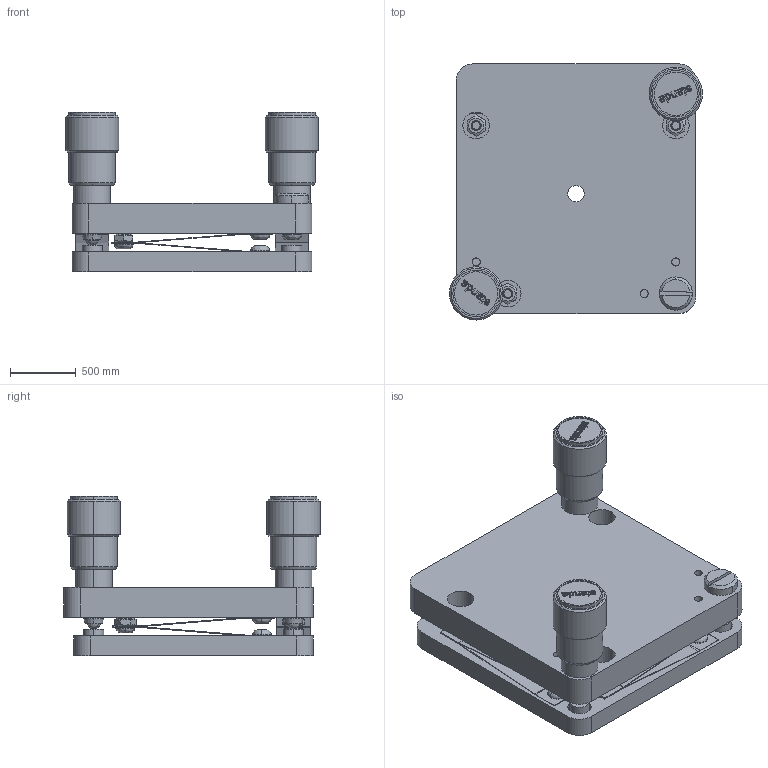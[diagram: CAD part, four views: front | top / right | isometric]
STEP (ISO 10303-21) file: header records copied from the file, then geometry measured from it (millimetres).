
FILE_DESCRIPTION (( 'STEP AP214' ), '1' );
FILE_NAME ('5OM60-2.STEP', '2009-05-18T10:34:55', ( 'ramunas' ), ( '' ), 'SwSTEP 2.0', 'SolidWorks 2003240', '' );
FILE_SCHEMA (( 'AUTOMOTIVE_DESIGN' ));
Products named in the file (1): 5OM60-2
Bounding box: 1930.4 x 1955.8 x 1219.1 mm (x, y, z)
Volume: 1389457119.4 mm3; surface area: 24430726.9 mm2
Topology: 1 solids, 13 shells, 953 faces, 2458 edges, 1606 vertices
Faces by surface type: plane 380, bspline 280, cylinder 198, cone 95
Entity records: 75986 total; most frequent: CARTESIAN_POINT 54450, ORIENTED_EDGE 4860, DIRECTION 3630, EDGE_CURVE 2430, VERTEX_POINT 1606, VECTOR 1244, LINE 1244, AXIS2_PLACEMENT_3D 1193
